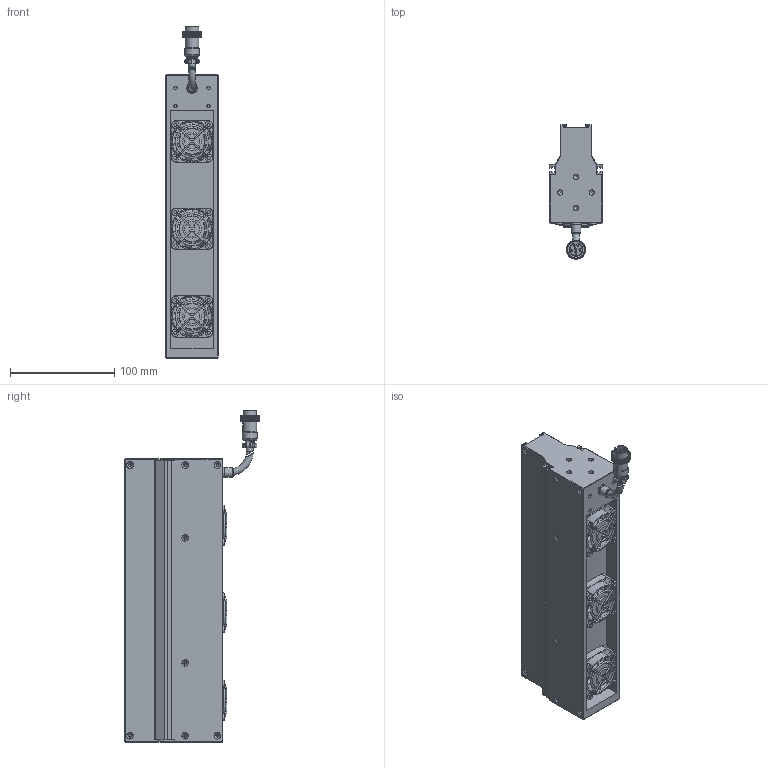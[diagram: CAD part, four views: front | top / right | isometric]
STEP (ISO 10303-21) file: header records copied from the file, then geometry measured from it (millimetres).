
FILE_DESCRIPTION (( 'STEP AP203' ), '1' );
FILE_NAME ('OPT-LSS272-W-V3.1尨砩芞.STEP', '2025-01-20T09:31:03', ( 'USER' ), ( '' ), 'SwSTEP 2.0', 'SolidWorks 2016', '' );
FILE_SCHEMA (( 'CONFIG_CONTROL_DESIGN' ));
Products named in the file (2): OPT-LSS272-W-V3.1尨砩芞
Bounding box: 50 x 129.15 x 318.83 mm (x, y, z)
Volume: 923328.8 mm3; surface area: 157724.2 mm2
Topology: 17 solids, 25 shells, 3918 faces, 8680 edges, 4893 vertices
Faces by surface type: bspline 2140, cylinder 824, plane 732, torus 173, cone 49
Full cylindrical faces by diameter (mm): 0.95 x6, 1.1 x2, 1.4 x2, 1.6 x12, 2 x7, 2.5 x16, 3.2 x16, 3.4 x16, 4 x4, 5 x8, 6.2 x12, 6.4 x3, 7.5 x1, 8.6 x1, 9.3 x1, 9.8 x1, 10 x1, 13.2 x1, 14 x1, 16.1 x1, 24.8 x3, 38 x3
Entity records: 131778 total; most frequent: CARTESIAN_POINT 65624, ORIENTED_EDGE 16736, EDGE_CURVE 8368, DIRECTION 7044, B_SPLINE_CURVE_WITH_KNOTS 5729, VERTEX_POINT 4822, EDGE_LOOP 4268, FACE_OUTER_BOUND 4098
